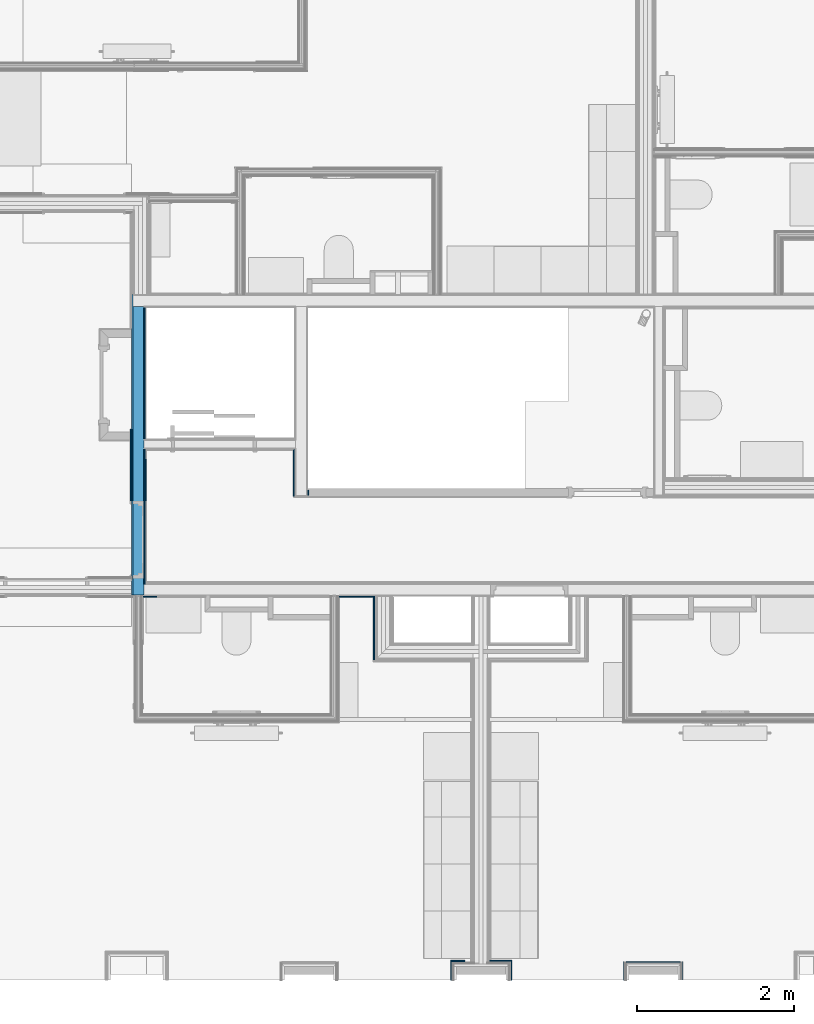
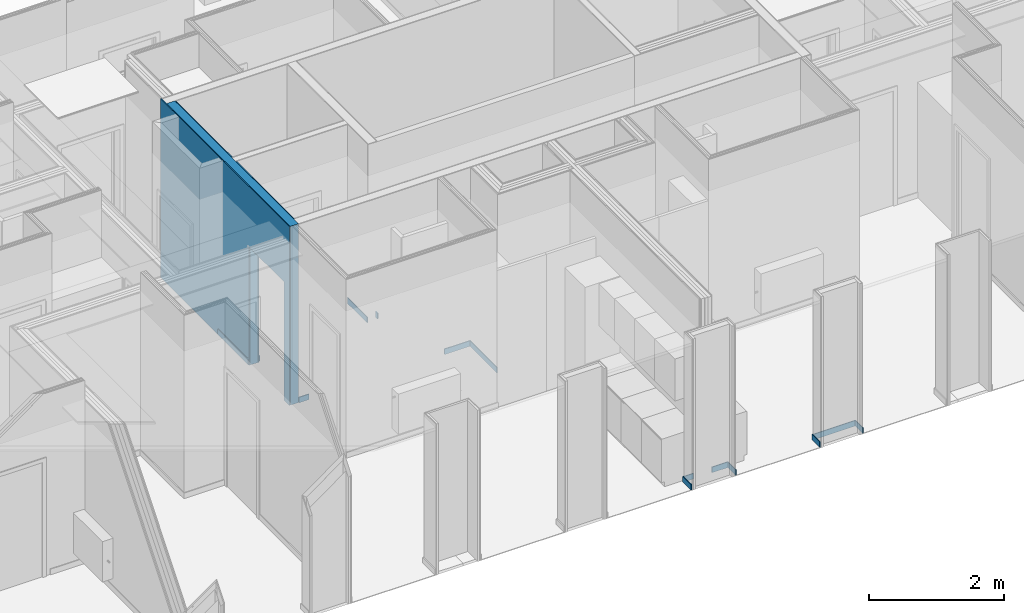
# One storey, part 29 of 64: 18 building element parts, 2 openings, 10 elements without a shape of their own.
"""IFC2X3 building model written with IfcOpenShell, lengths in metres."""

from ifc_helpers import new_model, entity, si_unit, converted_unit, derived_unit, money_unit, direction, frame, frame_2d, origin_with_axes, place, context, subcontext, project, spatial, polyline, rectangle, outline, extrude, material, type_object, element, aggregate, save


model = new_model("IFC2X3")

# Units and contexts
model_context = context("Model", 3, precision=1e-05, world=origin_with_axes(), true_north=direction((0.0, 1.0)))
body_context = subcontext(model_context, "Body", "Model", "MODEL_VIEW", scale=1.0)
ifc_project = project(units=[si_unit("LENGTHUNIT", "METRE"), si_unit("AREAUNIT", "SQUARE_METRE"), si_unit("VOLUMEUNIT", "CUBIC_METRE"), si_unit("ABSORBEDDOSEUNIT", "GRAY"), si_unit("AMOUNTOFSUBSTANCEUNIT", "MOLE"), si_unit("DOSEEQUIVALENTUNIT", "SIEVERT"), si_unit("ELECTRICCAPACITANCEUNIT", "FARAD"), si_unit("ELECTRICCHARGEUNIT", "COULOMB"), si_unit("ELECTRICCONDUCTANCEUNIT", "SIEMENS"), si_unit("ELECTRICCURRENTUNIT", "AMPERE"), si_unit("ELECTRICRESISTANCEUNIT", "OHM"), si_unit("ELECTRICVOLTAGEUNIT", "VOLT"), si_unit("ENERGYUNIT", "JOULE"), si_unit("FORCEUNIT", "NEWTON"), si_unit("FREQUENCYUNIT", "HERTZ"), si_unit("ILLUMINANCEUNIT", "LUX"), si_unit("INDUCTANCEUNIT", "HENRY"), si_unit("LUMINOUSFLUXUNIT", "LUMEN"), si_unit("LUMINOUSINTENSITYUNIT", "CANDELA"), si_unit("MAGNETICFLUXDENSITYUNIT", "TESLA"), si_unit("MAGNETICFLUXUNIT", "WEBER"), si_unit("MASSUNIT", "GRAM"), converted_unit("PLANEANGLEUNIT", "degree", entity("IfcReal", 0.0174532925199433), si_unit("PLANEANGLEUNIT", "RADIAN"), dimensions=[0, 0, 0, 0, 0, 0, 0]), si_unit("POWERUNIT", "WATT"), si_unit("PRESSUREUNIT", "PASCAL"), si_unit("RADIOACTIVITYUNIT", "BECQUEREL"), si_unit("SOLIDANGLEUNIT", "STERADIAN"), si_unit("THERMODYNAMICTEMPERATUREUNIT", "KELVIN"), si_unit("TIMEUNIT", "SECOND"), derived_unit("ACCELERATIONUNIT", [(si_unit("LENGTHUNIT", "METRE"), 1), (si_unit("TIMEUNIT", "SECOND"), -2)]), derived_unit("ANGULARVELOCITYUNIT", [(converted_unit("PLANEANGLEUNIT", "degree", entity("IfcReal", 0.0174532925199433), si_unit("PLANEANGLEUNIT", "RADIAN"), dimensions=[0, 0, 0, 0, 0, 0, 0]), 1), (si_unit("TIMEUNIT", "SECOND"), -1)]), derived_unit("CURVATUREUNIT", [(converted_unit("PLANEANGLEUNIT", "degree", entity("IfcReal", 0.0174532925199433), si_unit("PLANEANGLEUNIT", "RADIAN"), dimensions=[0, 0, 0, 0, 0, 0, 0]), 1), (si_unit("LENGTHUNIT", "METRE"), -1)]), derived_unit("DYNAMICVISCOSITYUNIT", [(si_unit("PRESSUREUNIT", "PASCAL"), 1), (si_unit("TIMEUNIT", "SECOND"), 1)]), derived_unit("HEATFLUXDENSITYUNIT", [(si_unit("POWERUNIT", "WATT"), 1), (si_unit("LENGTHUNIT", "METRE"), -2)]), derived_unit("HEATINGVALUEUNIT", [(si_unit("ENERGYUNIT", "JOULE"), 1), (si_unit("MASSUNIT", "GRAM"), -1)]), derived_unit("INTEGERCOUNTRATEUNIT", [(si_unit("TIMEUNIT", "SECOND"), -1)]), derived_unit("IONCONCENTRATIONUNIT", [(si_unit("MASSUNIT", "GRAM"), 1), (si_unit("VOLUMEUNIT", "CUBIC_METRE"), -1)]), derived_unit("ISOTHERMALMOISTURECAPACITYUNIT", [(si_unit("VOLUMEUNIT", "CUBIC_METRE"), 1), (si_unit("MASSUNIT", "GRAM"), -1)]), derived_unit("KINEMATICVISCOSITYUNIT", [(si_unit("AREAUNIT", "SQUARE_METRE"), 1), (si_unit("TIMEUNIT", "SECOND"), -1)]), derived_unit("LINEARFORCEUNIT", [(si_unit("FORCEUNIT", "NEWTON"), 1), (si_unit("LENGTHUNIT", "METRE"), -1)]), derived_unit("LINEARMOMENTUNIT", [(si_unit("FORCEUNIT", "NEWTON"), 1), (si_unit("LENGTHUNIT", "METRE"), -1)]), derived_unit("LINEARSTIFFNESSUNIT", [(si_unit("FORCEUNIT", "NEWTON"), 1), (si_unit("LENGTHUNIT", "METRE"), -1)]), derived_unit("LINEARVELOCITYUNIT", [(si_unit("LENGTHUNIT", "METRE"), 1), (si_unit("TIMEUNIT", "SECOND"), -1)]), derived_unit("LUMINOUSINTENSITYDISTRIBUTIONUNIT", [(si_unit("LUMINOUSINTENSITYUNIT", "CANDELA"), 1), (si_unit("LUMINOUSFLUXUNIT", "LUMEN"), -1)]), derived_unit("MASSDENSITYUNIT", [(si_unit("MASSUNIT", "GRAM"), 1), (si_unit("VOLUMEUNIT", "CUBIC_METRE"), -1)]), derived_unit("MASSFLOWRATEUNIT", [(si_unit("MASSUNIT", "GRAM"), 1), (si_unit("TIMEUNIT", "SECOND"), -1)]), derived_unit("MASSPERLENGTHUNIT", [(si_unit("MASSUNIT", "GRAM"), 1), (si_unit("LENGTHUNIT", "METRE"), -1)]), derived_unit("MODULUSOFELASTICITYUNIT", [(si_unit("FORCEUNIT", "NEWTON"), 1), (si_unit("AREAUNIT", "SQUARE_METRE"), -1)]), derived_unit("MODULUSOFLINEARSUBGRADEREACTIONUNIT", [(si_unit("FORCEUNIT", "NEWTON"), 1), (si_unit("LENGTHUNIT", "METRE"), -2)]), derived_unit("MODULUSOFROTATIONALSUBGRADEREACTIONUNIT", [(si_unit("FORCEUNIT", "NEWTON"), 1), (si_unit("LENGTHUNIT", "METRE"), 1)]), derived_unit("MODULUSOFSUBGRADEREACTIONUNIT", [(si_unit("FORCEUNIT", "NEWTON"), 1), (si_unit("VOLUMEUNIT", "CUBIC_METRE"), -1)]), derived_unit("MOISTUREDIFFUSIVITYUNIT", [(si_unit("VOLUMEUNIT", "CUBIC_METRE"), 1), (si_unit("TIMEUNIT", "SECOND"), -1)]), derived_unit("MOLECULARWEIGHTUNIT", [(si_unit("MASSUNIT", "GRAM"), 1), (si_unit("AMOUNTOFSUBSTANCEUNIT", "MOLE"), -1)]), derived_unit("PLANARFORCEUNIT", [(si_unit("FORCEUNIT", "NEWTON"), 1), (si_unit("LENGTHUNIT", "METRE"), -2)]), derived_unit("ROTATIONALFREQUENCYUNIT", [(si_unit("TIMEUNIT", "SECOND"), -1)]), derived_unit("ROTATIONALMASSUNIT", [(si_unit("MASSUNIT", "GRAM"), 1), (si_unit("LENGTHUNIT", "METRE"), 2)]), derived_unit("ROTATIONALSTIFFNESSUNIT", [(si_unit("FORCEUNIT", "NEWTON"), 1), (si_unit("LENGTHUNIT", "METRE"), 1), (converted_unit("PLANEANGLEUNIT", "degree", entity("IfcReal", 0.0174532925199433), si_unit("PLANEANGLEUNIT", "RADIAN"), dimensions=[0, 0, 0, 0, 0, 0, 0]), -1)]), derived_unit("SECTIONAREAINTEGRALUNIT", [(si_unit("LENGTHUNIT", "METRE"), 5)]), derived_unit("SECTIONMODULUSUNIT", [(si_unit("LENGTHUNIT", "METRE"), 3)]), derived_unit("SHEARMODULUSUNIT", [(si_unit("FORCEUNIT", "NEWTON"), 1), (si_unit("AREAUNIT", "SQUARE_METRE"), -1)]), derived_unit("SOUNDPOWERUNIT", [(si_unit("ENERGYUNIT", "JOULE"), 1), (si_unit("TIMEUNIT", "SECOND"), -1)]), derived_unit("SPECIFICHEATCAPACITYUNIT", [(si_unit("FORCEUNIT", "NEWTON"), 1), (si_unit("MASSUNIT", "GRAM"), -1), (si_unit("THERMODYNAMICTEMPERATUREUNIT", "KELVIN"), -1)]), derived_unit("TEMPERATUREGRADIENTUNIT", [(si_unit("THERMODYNAMICTEMPERATUREUNIT", "KELVIN"), 1), (si_unit("LENGTHUNIT", "METRE"), -1)]), derived_unit("THERMALADMITTANCEUNIT", [(si_unit("POWERUNIT", "WATT"), 1), (si_unit("AREAUNIT", "SQUARE_METRE"), -1), (si_unit("THERMODYNAMICTEMPERATUREUNIT", "KELVIN"), -1)]), derived_unit("THERMALCONDUCTANCEUNIT", [(si_unit("POWERUNIT", "WATT"), 1), (si_unit("LENGTHUNIT", "METRE"), -1), (si_unit("THERMODYNAMICTEMPERATUREUNIT", "KELVIN"), -1)]), derived_unit("THERMALEXPANSIONCOEFFICIENTUNIT", [(si_unit("THERMODYNAMICTEMPERATUREUNIT", "KELVIN"), -1)]), derived_unit("THERMALRESISTANCEUNIT", [(si_unit("AREAUNIT", "SQUARE_METRE"), 1), (si_unit("POWERUNIT", "WATT"), -1)]), derived_unit("THERMALTRANSMITTANCEUNIT", [(si_unit("POWERUNIT", "WATT"), 1), (si_unit("AREAUNIT", "SQUARE_METRE"), -1), (si_unit("THERMODYNAMICTEMPERATUREUNIT", "KELVIN"), -1)]), derived_unit("TORQUEUNIT", [(si_unit("FORCEUNIT", "NEWTON"), 1), (si_unit("LENGTHUNIT", "METRE"), 1)]), derived_unit("VAPORPERMEABILITYUNIT", [(si_unit("MASSUNIT", "GRAM"), 1), (si_unit("TIMEUNIT", "SECOND"), -1)]), derived_unit("VOLUMETRICFLOWRATEUNIT", [(si_unit("VOLUMEUNIT", "CUBIC_METRE"), 1), (si_unit("TIMEUNIT", "SECOND"), -1)]), derived_unit("WARPINGCONSTANTUNIT", [(si_unit("LENGTHUNIT", "METRE"), 6)]), derived_unit("WARPINGMOMENTUNIT", [(si_unit("FORCEUNIT", "NEWTON"), 1), (si_unit("LENGTHUNIT", "METRE"), 2)]), money_unit("GBP")], contexts=[model_context])

# Site, building, storey
site_placement = place(None, origin_with_axes())
site = spatial("IfcSite", under=ifc_project, at=site_placement, Name="Site", CompositionType="ELEMENT")
building_placement = place(site_placement, origin_with_axes())
building = spatial("IfcBuilding", under=site, at=building_placement, Name="Building01", CompositionType="ELEMENT")
storey_placement = place(building_placement, frame((0.0, 0.0, 8.64), z_axis=(0.0, 0.0, 1.0), x_axis=(1.0, 0.0, 0.0)))
storey = spatial("IfcBuildingStorey", under=building, at=storey_placement, Name="2F", CompositionType="ELEMENT", Elevation=8.64)

# Wall, openings, building element parts
wall_type_1 = type_object("IfcWallType", Name="SHE_A-Walls_Type03a_BlockworkWall_170mm", PredefinedType="NOTDEFINED")
wall_1_placement = place(storey_placement, frame((9.075, 8.665, 0.0), z_axis=(0.0, 0.0, 1.0), x_axis=(0.0, -1.0, 0.0)))
wall_1 = element("IfcWall", 1, at=wall_1_placement, inside=storey, type_object=wall_type_1, Name="4B", ObjectType="SHE_A-Walls_Type03a_BlockworkWall_170mm")
opening_1_placement = place(wall_1_placement, frame((2.527281, -0.03, 0.0), z_axis=(0.0, 0.0, 1.0), x_axis=(1.0, 0.0, 0.0)))
element("IfcOpeningElement", 2, at=opening_1_placement, cuts=wall_1, Name="Opening", ObjectType="Opening", context=body_context, shape_type="SweptSolid", body=[
    extrude(rectangle(XDim=0.984, YDim=2.142, at=frame_2d((-0.492, 1.071), x_axis=(1.0, 0.0))), frame((0.0, 0.0, 0.0), z_axis=(0.0, 1.0, 0.0), x_axis=(-1.0, 0.0, 0.0)), (0.0, 0.0, 1.0), 0.2),
])
opening_2_placement = place(wall_1_placement, frame((2.473, -0.03, 0.0), z_axis=(0.0, 0.0, 1.0), x_axis=(1.0, 0.0, 0.0)))
element("IfcOpeningElement", 3, at=opening_2_placement, cuts=wall_1, Name="Opening", ObjectType="Opening", context=body_context, shape_type="SweptSolid", body=[
    extrude(rectangle(XDim=2.142, YDim=0.984, at=frame_2d((-0.492, 1.071), x_axis=(0.0, -1.0))), frame((0.0, 0.0, 0.0), z_axis=(0.0, 1.0, 0.0), x_axis=(-1.0, 0.0, 0.0)), (0.0, 0.0, 1.0), 0.2),
])
ifc_material_1 = material(Name="A_BSUK_Walls_Timber")
placement_1 = place(wall_1_placement, origin_with_axes())
building_element_part_1 = element("IfcBuildingElementPart", 4, at=placement_1, material=ifc_material_1, Name="1", context=body_context, shape_type="SweptSolid", body=[
    extrude(rectangle(XDim=1.883405, YDim=0.015, at=frame_2d((2.503298, -0.0225), x_axis=(-1.0, 0.0))), frame((0.0, 0.0, 0.015), z_axis=(0.0, 0.0, 1.0), x_axis=(1.0, 0.0, 0.0)), (0.0, 0.0, 1.0), 0.1),
])
ifc_material_2 = material(Name="A_BSUK_WallInternal_Finishes_Plasterboard")
building_element_part_2 = element("IfcBuildingElementPart", 5, at=placement_1, material=ifc_material_2, Name="2", context=body_context, shape_type="SweptSolid", body=[
    extrude(rectangle(XDim=3.825, YDim=0.015, at=frame_2d((1.7575, -0.0075), x_axis=(-1.0, 0.0))), origin_with_axes(), (0.0, 0.0, 1.0), 3.24),
])
ifc_material_3 = material(Name="A_BSUK_WallsInternal_Block")
building_element_part_3 = element("IfcBuildingElementPart", 6, at=placement_1, material=ifc_material_3, Name="3", context=body_context, shape_type="SweptSolid", body=[
    extrude(rectangle(XDim=3.67, YDim=0.14, at=frame_2d((1.835, 0.07), x_axis=(-1.0, 0.0))), origin_with_axes(), (0.0, 0.0, 1.0), 3.24),
])
ifc_material_4 = material(Name="A_BSUK_WallInternal_Finishes_Plaster")
building_element_part_4 = element("IfcBuildingElementPart", 7, at=placement_1, material=ifc_material_4, Name="4", context=body_context, shape_type="SweptSolid", body=[
    extrude(rectangle(XDim=1.67, YDim=0.015, at=frame_2d((0.85, 0.1475), x_axis=(-1.0, 0.0))), origin_with_axes(), (0.0, 0.0, 1.0), 3.24),
])
building_element_part_5 = element("IfcBuildingElementPart", 8, at=placement_1, material=ifc_material_4, Name="5", context=body_context, shape_type="SweptSolid", body=[
    extrude(rectangle(XDim=1.715, YDim=0.015, at=frame_2d((2.6725, 0.1475), x_axis=(-1.0, 0.0))), origin_with_axes(), (0.0, 0.0, 1.0), 3.24),
])
building_element_part_6 = element("IfcBuildingElementPart", 9, at=placement_1, material=ifc_material_1, Name="6", context=body_context, shape_type="SweptSolid", body=[
    extrude(outline(polyline([(3.5, 0.17), (1.940919, 0.17), (1.955919, 0.155), (3.5, 0.155), (3.5, 0.17)])), frame((0.0, 0.0, 0.015), z_axis=(0.0, 0.0, 1.0), x_axis=(1.0, 0.0, 0.0)), (0.0, 0.0, 1.0), 0.1),
])
aggregate(wall_1, [building_element_part_1, building_element_part_2, building_element_part_3, building_element_part_4, building_element_part_5, building_element_part_6])

# Wall, building element parts
wall_2_placement = place(storey_placement, frame((11.145, 6.263, 0.0), z_axis=(0.0, 0.0, 1.0), x_axis=(0.0, 1.0, 0.0)))
wall_2 = element("IfcWall", 10, at=wall_2_placement, inside=storey, type_object=wall_type_1, Name="4B", ObjectType="SHE_A-Walls_Type03a_BlockworkWall_170mm")
placement_2 = place(wall_2_placement, origin_with_axes())
building_element_part_7 = element("IfcBuildingElementPart", 11, at=placement_2, material=ifc_material_1, Name="1", context=body_context, shape_type="SweptSolid", body=[
    extrude(rectangle(XDim=0.062, YDim=0.015, at=frame_2d((0.031, -0.1625), x_axis=(-1.0, 0.0))), frame((0.0, 0.0, 0.015), z_axis=(0.0, 0.0, 1.0), x_axis=(1.0, 0.0, 0.0)), (0.0, 0.0, 1.0), 0.1),
])
building_element_part_8 = element("IfcBuildingElementPart", 12, at=placement_2, material=ifc_material_1, Name="6", context=body_context, shape_type="SweptSolid", body=[
    extrude(outline(polyline([(0.572, 0.03), (-0.013, 0.03), (-0.013, 0.015), (0.587, 0.015), (0.572, 0.03)])), frame((0.0, 0.0, 0.015), z_axis=(0.0, 0.0, 1.0), x_axis=(1.0, 0.0, 0.0)), (0.0, 0.0, 1.0), 0.1),
])
aggregate(wall_2, [building_element_part_7, building_element_part_8])

# Wall, building element part
wall_type_2 = type_object("IfcWallType", Name="SHE_A-Walls_Type06d_ExternalWallInsulation_48mm", PredefinedType="NOTDEFINED")
wall_3_placement = place(storey_placement, frame((15.383, 0.1, 0.0), z_axis=(0.0, 0.0, 1.0), x_axis=(0.0, 1.0, 0.0)))
wall_3 = element("IfcWall", 13, at=wall_3_placement, inside=storey, type_object=wall_type_2, Name="6D", ObjectType="SHE_A-Walls_Type06d_ExternalWallInsulation_48mm")
building_element_part_9_placement = place(wall_3_placement, origin_with_axes())
building_element_part_9 = element("IfcBuildingElementPart", 14, at=building_element_part_9_placement, material=ifc_material_1, Name="3", context=body_context, shape_type="SweptSolid", body=[
    extrude(outline(polyline([(0.233, 0.063), (0.0, 0.063), (0.0, 0.048), (0.218, 0.048), (0.233, 0.063)])), frame((0.0, 0.0, 0.015), z_axis=(0.0, 0.0, 1.0), x_axis=(1.0, 0.0, 0.0)), (0.0, 0.0, 1.0), 0.1),
])
aggregate(wall_3, [building_element_part_9])

wall_4_placement = place(storey_placement, frame((15.383, 0.27, 0.0), z_axis=(0.0, 0.0, 1.0), x_axis=(1.0, 0.0, 0.0)))
wall_4 = element("IfcWall", 15, at=wall_4_placement, inside=storey, type_object=wall_type_2, Name="6D", ObjectType="SHE_A-Walls_Type06d_ExternalWallInsulation_48mm")
building_element_part_10_placement = place(wall_4_placement, origin_with_axes())
building_element_part_10 = element("IfcBuildingElementPart", 16, at=building_element_part_10_placement, material=ifc_material_1, Name="3", context=body_context, shape_type="SweptSolid", body=[
    extrude(outline(polyline([(0.687, 0.063), (-0.063, 0.063), (-0.048, 0.048), (0.672, 0.048), (0.687, 0.063)])), frame((0.0, 0.0, 0.015), z_axis=(0.0, 0.0, 1.0), x_axis=(1.0, 0.0, 0.0)), (0.0, 0.0, 1.0), 0.1),
])
aggregate(wall_4, [building_element_part_10])

wall_5_placement = place(storey_placement, frame((16.007, 0.27, 0.0), z_axis=(0.0, 0.0, 1.0), x_axis=(0.0, -1.0, 0.0)))
wall_5 = element("IfcWall", 17, at=wall_5_placement, inside=storey, type_object=wall_type_2, Name="6D", ObjectType="SHE_A-Walls_Type06d_ExternalWallInsulation_48mm")
building_element_part_11_placement = place(wall_5_placement, origin_with_axes())
building_element_part_11 = element("IfcBuildingElementPart", 18, at=building_element_part_11_placement, material=ifc_material_1, Name="3", context=body_context, shape_type="SweptSolid", body=[
    extrude(outline(polyline([(-0.063, 0.063), (-0.048, 0.048), (0.17, 0.048), (0.17, 0.063), (-0.063, 0.063)])), frame((0.0, 0.0, 0.015), z_axis=(0.0, 0.0, 1.0), x_axis=(1.0, 0.0, 0.0)), (0.0, 0.0, 1.0), 0.1),
])
aggregate(wall_5, [building_element_part_11])

wall_type_3 = type_object("IfcWallType", Name="SHE_A-Walls_Type01c_Partywall_225mm_twin_tall", PredefinedType="NOTDEFINED")
wall_6_placement = place(storey_placement, frame((12.288, 4.98, 0.0), z_axis=(0.0, 0.0, 1.0), x_axis=(0.0, -1.0, 0.0)))
wall_6 = element("IfcWall", 19, at=wall_6_placement, inside=storey, type_object=wall_type_3, Name="1C", ObjectType="SHE_A-Walls_Type01c_Partywall_225mm_twin_tall")
building_element_part_12_placement = place(wall_6_placement, origin_with_axes())
building_element_part_12 = element("IfcBuildingElementPart", 20, at=building_element_part_12_placement, material=ifc_material_1, Name="1", context=body_context, shape_type="SweptSolid", body=[
    extrude(rectangle(XDim=0.815572, YDim=0.015, at=frame_2d((0.407786, -0.1455), x_axis=(-1.0, 0.0))), frame((0.0, 0.0, 0.015), z_axis=(0.0, 0.0, 1.0), x_axis=(1.0, 0.0, 0.0)), (0.0, 0.0, 1.0), 0.1),
])
aggregate(wall_6, [building_element_part_12])

# Wall, building element parts
wall_7_placement = place(storey_placement, frame((9.215, 4.995, 0.0), z_axis=(0.0, 0.0, 1.0), x_axis=(1.0, 0.0, 0.0)))
wall_7 = element("IfcWall", 21, at=wall_7_placement, inside=storey, type_object=wall_type_1, Name="4B", ObjectType="SHE_A-Walls_Type03a_BlockworkWall_170mm")
placement_3 = place(wall_7_placement, origin_with_axes())
building_element_part_13 = element("IfcBuildingElementPart", 22, at=placement_3, material=ifc_material_1, Name="1", context=body_context, shape_type="SweptSolid", body=[
    extrude(rectangle(XDim=0.169464, YDim=0.015, at=frame_2d((0.077268, -0.0225), x_axis=(-1.0, 0.0))), frame((0.0, 0.0, 0.015), z_axis=(0.0, 0.0, 1.0), x_axis=(1.0, 0.0, 0.0)), (0.0, 0.0, 1.0), 0.1),
])
building_element_part_14 = element("IfcBuildingElementPart", 23, at=placement_3, material=ifc_material_1, Name="6", context=body_context, shape_type="SweptSolid", body=[
    extrude(rectangle(XDim=0.432464, YDim=0.015, at=frame_2d((2.703768, -0.0225), x_axis=(-1.0, 0.0))), frame((0.0, 0.0, 0.015), z_axis=(0.0, 0.0, 1.0), x_axis=(1.0, 0.0, 0.0)), (0.0, 0.0, 1.0), 0.1),
])
aggregate(wall_7, [building_element_part_13, building_element_part_14])

# Wall, building element part
wall_type_4 = type_object("IfcWallType", Name="SHE_A-Walls_Type06f_ExternalWallInsulation_48+15mm", PredefinedType="NOTDEFINED")
wall_8_placement = place(storey_placement, frame((13.193, 0.27, 0.0), z_axis=(0.0, 0.0, 1.0), x_axis=(0.0, 1.0, 0.0)))
wall_8 = element("IfcWall", 24, at=wall_8_placement, inside=storey, type_object=wall_type_4, Name="6F", ObjectType="SHE_A-Walls_Type06f_ExternalWallInsulation_48+15mm")
building_element_part_15_placement = place(wall_8_placement, origin_with_axes())
building_element_part_15 = element("IfcBuildingElementPart", 25, at=building_element_part_15_placement, material=ifc_material_1, Name="4", context=body_context, shape_type="SweptSolid", body=[
    extrude(outline(polyline([(-0.17, 0.063), (0.063, 0.063), (0.078, 0.078), (-0.17, 0.078), (-0.17, 0.063)])), frame((0.0, 0.0, 0.015), z_axis=(0.0, 0.0, 1.0), x_axis=(1.0, 0.0, 0.0)), (0.0, 0.0, 1.0), 0.1),
])
aggregate(wall_8, [building_element_part_15])

# Wall, building element parts
wall_9_placement = place(storey_placement, frame((13.853124, 0.27, 0.0), z_axis=(0.0, 0.0, 1.0), x_axis=(1.0, 0.0, 0.0)))
wall_9 = element("IfcWall", 26, at=wall_9_placement, inside=storey, type_object=wall_type_4, Name="6F", ObjectType="SHE_A-Walls_Type06f_ExternalWallInsulation_48+15mm")
placement_4 = place(wall_9_placement, origin_with_axes())
building_element_part_16 = element("IfcBuildingElementPart", 27, at=placement_4, material=ifc_material_1, Name="6", context=body_context, shape_type="SweptSolid", body=[
    extrude(outline(polyline([(-0.240624, 0.063), (0.027, 0.063), (0.042, 0.078), (-0.240624, 0.078), (-0.240624, 0.063)])), frame((0.0, 0.0, 0.015), z_axis=(0.0, 0.0, 1.0), x_axis=(1.0, 0.0, 0.0)), (0.0, 0.0, 1.0), 0.1),
])
building_element_part_17 = element("IfcBuildingElementPart", 28, at=placement_4, material=ifc_material_1, Name="7", context=body_context, shape_type="SweptSolid", body=[
    extrude(outline(polyline([(-0.723124, 0.063), (-0.559992, 0.063), (-0.559992, 0.078), (-0.738124, 0.078), (-0.723124, 0.063)])), frame((0.0, 0.0, 0.015), z_axis=(0.0, 0.0, 1.0), x_axis=(1.0, 0.0, 0.0)), (0.0, 0.0, 1.0), 0.1),
])
aggregate(wall_9, [building_element_part_16, building_element_part_17])

# Wall, building element part
wall_10_placement = place(storey_placement, frame((13.817124, 0.27, 0.0), z_axis=(0.0, 0.0, 1.0), x_axis=(0.0, 1.0, 0.0)))
wall_10 = element("IfcWall", 29, at=wall_10_placement, inside=storey, type_object=wall_type_4, Name="6F", ObjectType="SHE_A-Walls_Type06f_ExternalWallInsulation_48+15mm")
building_element_part_18_placement = place(wall_10_placement, origin_with_axes())
building_element_part_18 = element("IfcBuildingElementPart", 30, at=building_element_part_18_placement, material=ifc_material_1, Name="1", context=body_context, shape_type="SweptSolid", body=[
    extrude(outline(polyline([(-0.17, -0.078), (0.078, -0.078), (0.063, -0.063), (-0.17, -0.063), (-0.17, -0.078)])), frame((0.0, 0.0, 0.015), z_axis=(0.0, 0.0, 1.0), x_axis=(1.0, 0.0, 0.0)), (0.0, 0.0, 1.0), 0.1),
])
aggregate(wall_10, [building_element_part_18])

save(model, "model.ifc")
